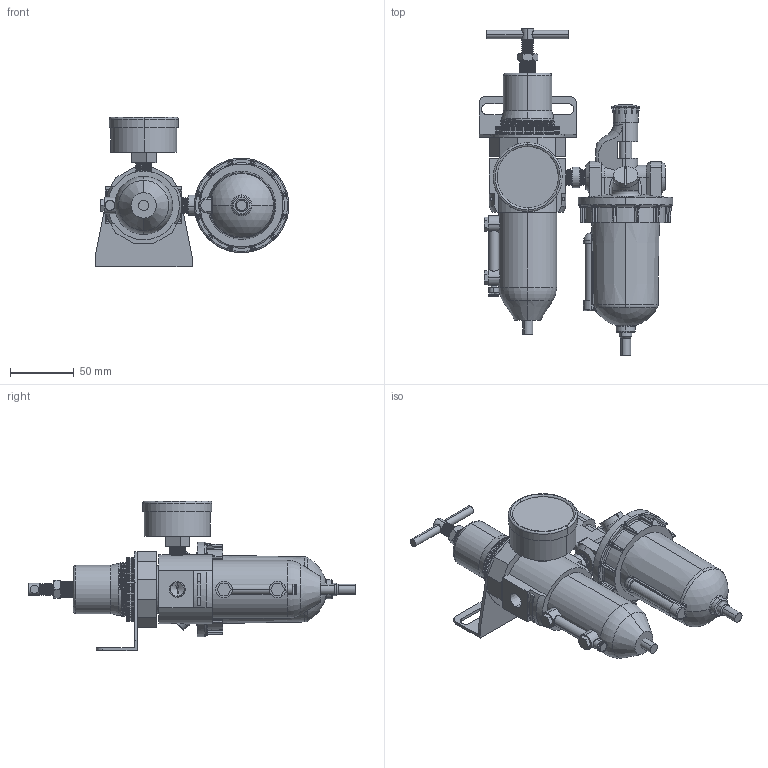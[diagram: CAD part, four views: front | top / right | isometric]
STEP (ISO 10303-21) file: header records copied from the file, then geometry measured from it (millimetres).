
FILE_DESCRIPTION (( 'STEP AP203' ), '1' );
FILE_NAME ('U668W-02#YB#.STEP', '2016-01-14T17:14:50', ( '' ), ( '' ), 'SwSTEP 2.0', 'SolidWorks 2014', '' );
FILE_SCHEMA (( 'CONFIG_CONTROL_DESIGN' ));
Length unit declared in the file: millimetre
Products named in the file (26): 50-P-AD=1-4PT.SLDPRT; R119-02-5; 1-4-圓; L606-W-06-3; L606-W-06-4; L606-W-06-5; U668W-02#YB#; B011W-1; R011-上半部; R119-02-7; R011-1; 50-P-AD=1-4PT-2; D011W-04-刻度計; L606-W-04-1; 50-P-AD=1-4PT-1; L606W-02-刻度計; KWR10X51; KWSAR10Y57; L606W-02; D011W-5; D011W-4; D011W-6; R119-02-6; B012W-02#YGB#; L606-W-02; KWSAR10Y57-1
Assembly tree (28 placements, depth 5):
  U668W-02#YB#
    B012W-02#YGB#
      B011W-1
      50-P-AD=1-4PT.SLDPRT
        50-P-AD=1-4PT-1
        50-P-AD=1-4PT-2
      L606-W-06-5
      D011W-04-刻度計
        D011W-5  x2
        D011W-4
        D011W-6
      R011-上半部
        KWSAR10Y57
          KWSAR10Y57-1
          KWR10X51
        R011-1
        R119-02-5
        R119-02-6
        R119-02-7
    1-4-圓
    L606W-02
      L606-W-06-5
      L606-W-06-4
      L606-W-06-3  x2
      L606-W-04-1
      L606-W-02
      L606W-02-刻度計
Bounding box: 151.75 x 257 x 117 mm (x, y, z)
Volume: 709071.4 mm3; surface area: 122589.2 mm2
Topology: 23 solids, 23 shells, 1239 faces, 3315 edges, 2114 vertices
Faces by surface type: plane 595, cylinder 337, bspline 126, cone 103, torus 45, sphere 33
Entity records: 55724 total; most frequent: CARTESIAN_POINT 24194, ORIENTED_EDGE 6446, DIRECTION 5577, EDGE_CURVE 3223, VERTEX_POINT 2078, AXIS2_PLACEMENT_3D 1964, VECTOR 1649, LINE 1649
